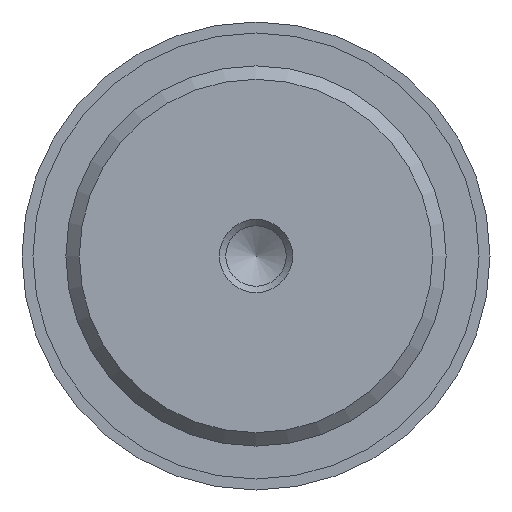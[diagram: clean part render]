
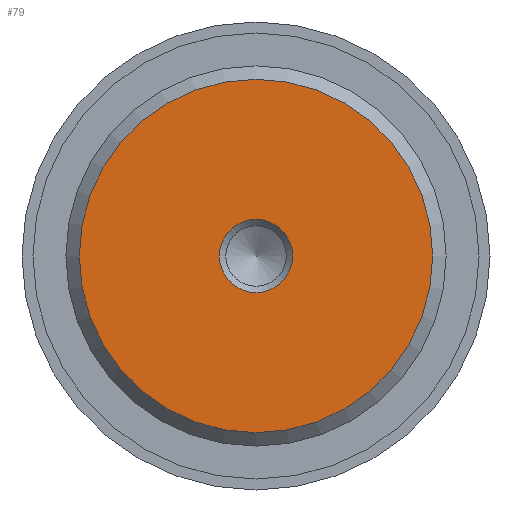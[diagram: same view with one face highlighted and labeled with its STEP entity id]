
A CAD part, front view. The second image highlights one B-rep face of the part: STEP entity #79.
In plain terms, the highlighted planar face has unit normal (0, -1, 0).
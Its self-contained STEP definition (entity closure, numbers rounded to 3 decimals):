
#79 = ADVANCED_FACE( '', ( #123, #124 ), #125, .F. );
#123 = FACE_BOUND( '', #206, .T. );
#124 = FACE_OUTER_BOUND( '', #207, .T. );
#125 = PLANE( '', #208 );
#206 = EDGE_LOOP( '', ( #303 ) );
#207 = EDGE_LOOP( '', ( #304 ) );
#208 = AXIS2_PLACEMENT_3D( '', #305, #306, #307 );
#303 = ORIENTED_EDGE( '', *, *, #522, .F. );
#304 = ORIENTED_EDGE( '', *, *, #526, .T. );
#305 = CARTESIAN_POINT( '', ( 12.08, 0., 0. ) );
#306 = DIRECTION( '', ( 0., 1., 0. ) );
#307 = DIRECTION( '', ( 0., 0., 1. ) );
#522 = EDGE_CURVE( '', #594, #594, #595, .T. );
#526 = EDGE_CURVE( '', #600, #600, #601, .T. );
#594 = VERTEX_POINT( '', #715 );
#595 = CIRCLE( '', #716, 2.5 );
#600 = VERTEX_POINT( '', #721 );
#601 = CIRCLE( '', #722, 12.08 );
#715 = CARTESIAN_POINT( '', ( 2.5, 0., 0. ) );
#716 = AXIS2_PLACEMENT_3D( '', #901, #902, #903 );
#721 = CARTESIAN_POINT( '', ( 0., 0., -12.08 ) );
#722 = AXIS2_PLACEMENT_3D( '', #910, #911, #912 );
#901 = CARTESIAN_POINT( '', ( 0., 0., 0. ) );
#902 = DIRECTION( '', ( 0., -1., 0. ) );
#903 = DIRECTION( '', ( 1., 0., 0. ) );
#910 = CARTESIAN_POINT( '', ( 0., 0., 0. ) );
#911 = DIRECTION( '', ( 0., -1., 0. ) );
#912 = DIRECTION( '', ( 0., 0., -1. ) );
